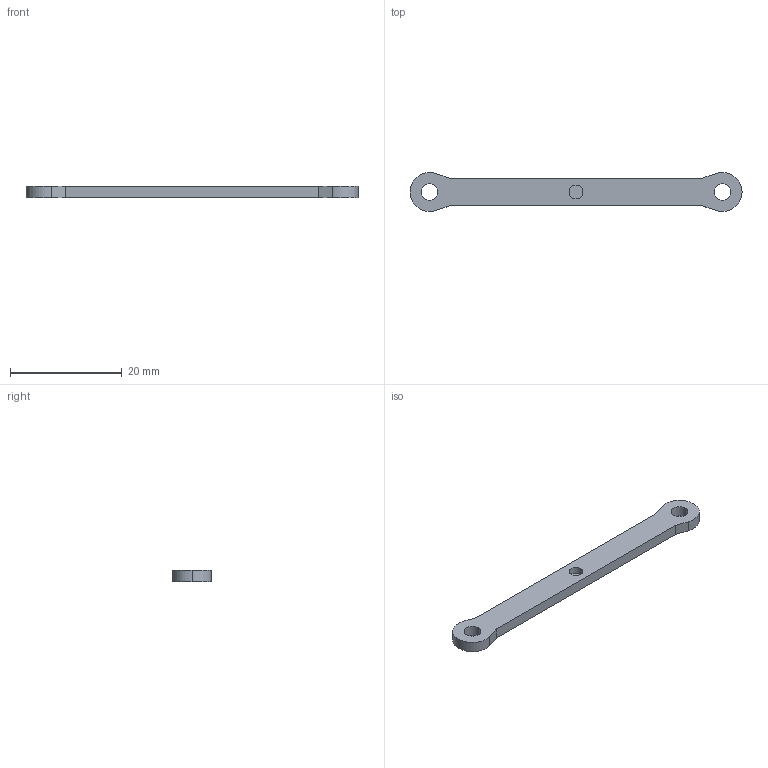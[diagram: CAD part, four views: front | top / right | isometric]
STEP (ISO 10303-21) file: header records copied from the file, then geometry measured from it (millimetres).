
FILE_DESCRIPTION(('STEP AP214'),'1');
FILE_NAME('tmp0.step','2025-04-26T20:20:53',(' '),(' '),'Spatial InterOp 3D',' ',' ');
FILE_SCHEMA(('AUTOMOTIVE_DESIGN { 1 0 10303 214 1 1 1 1 }'));
Length unit declared in the file: millimetre
Products named in the file (1): 1
Bounding box: 59.5 x 7 x 2 mm (x, y, z)
Volume: 583.7 mm3; surface area: 892.6 mm2
Topology: 1 solids, 1 shells, 19 faces, 48 edges, 32 vertices
Faces by surface type: cylinder 10, plane 9
Entity records: 615 total; most frequent: DIRECTION 108, CARTESIAN_POINT 100, ORIENTED_EDGE 96, EDGE_CURVE 48, AXIS2_PLACEMENT_3D 40, VERTEX_POINT 32, LINE 28, VECTOR 28
